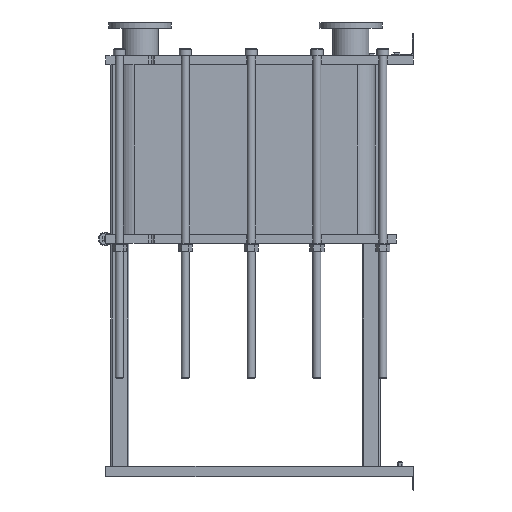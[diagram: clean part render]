
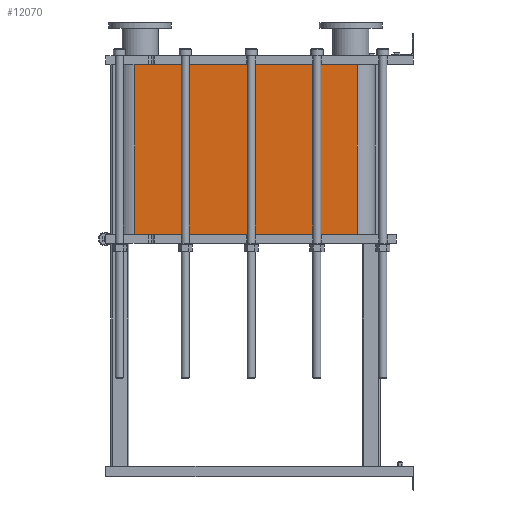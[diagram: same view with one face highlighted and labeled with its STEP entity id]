
A CAD part, left-side view. The second image highlights one B-rep face of the part: STEP entity #12070.
In plain terms, the highlighted planar face has unit normal (-1, 0, 0).
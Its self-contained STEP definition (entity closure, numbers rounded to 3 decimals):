
#1064=LINE('',#21140,#2164);
#1065=LINE('',#21144,#2165);
#1066=LINE('',#21146,#2166);
#1067=LINE('',#21147,#2167);
#2164=VECTOR('',#15790,10.);
#2165=VECTOR('',#15795,10.);
#2166=VECTOR('',#15796,10.);
#2167=VECTOR('',#15797,10.);
#3304=FACE_OUTER_BOUND('',#4091,.T.);
#4091=EDGE_LOOP('',(#9793,#9794,#9795,#9796));
#5677=VERTEX_POINT('',#21137);
#5678=VERTEX_POINT('',#21139);
#5679=VERTEX_POINT('',#21143);
#5680=VERTEX_POINT('',#21145);
#7118=EDGE_CURVE('',#5678,#5677,#1064,.T.);
#7120=EDGE_CURVE('',#5677,#5679,#1065,.T.);
#7121=EDGE_CURVE('',#5680,#5679,#1066,.T.);
#7122=EDGE_CURVE('',#5680,#5678,#1067,.T.);
#9793=ORIENTED_EDGE('',*,*,#7120,.T.);
#9794=ORIENTED_EDGE('',*,*,#7121,.F.);
#9795=ORIENTED_EDGE('',*,*,#7122,.T.);
#9796=ORIENTED_EDGE('',*,*,#7118,.T.);
#11441=PLANE('',#13191);
#12070=ADVANCED_FACE('',(#3304),#11441,.T.);
#13191=AXIS2_PLACEMENT_3D('',#21142,#15793,#15794);
#15790=DIRECTION('',(0.,0.,-1.));
#15793=DIRECTION('center_axis',(-1.,0.,0.));
#15794=DIRECTION('ref_axis',(0.,1.,0.));
#15795=DIRECTION('',(0.,-1.,0.));
#15796=DIRECTION('',(0.,0.,-1.));
#15797=DIRECTION('',(0.,1.,0.));
#21137=CARTESIAN_POINT('',(-248.152,1243.818,-759.));
#21139=CARTESIAN_POINT('',(-248.152,1243.818,0.));
#21140=CARTESIAN_POINT('',(-248.152,1243.818,0.));
#21142=CARTESIAN_POINT('Origin',(-248.152,251.818,0.));
#21143=CARTESIAN_POINT('',(-248.152,251.818,-759.));
#21144=CARTESIAN_POINT('',(-248.152,499.818,-759.));
#21145=CARTESIAN_POINT('',(-248.152,251.818,0.));
#21146=CARTESIAN_POINT('',(-248.152,251.818,0.));
#21147=CARTESIAN_POINT('',(-248.152,251.818,0.));
